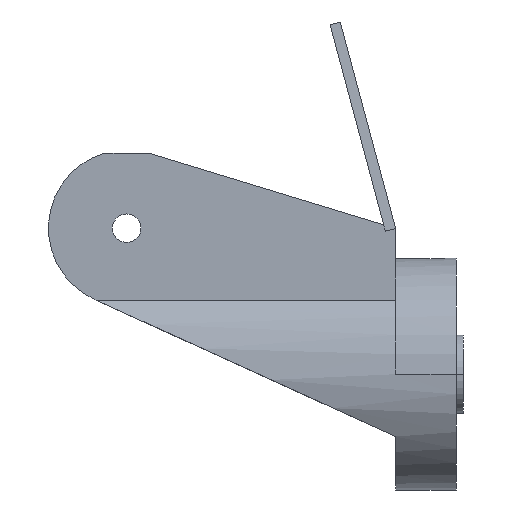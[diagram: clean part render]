
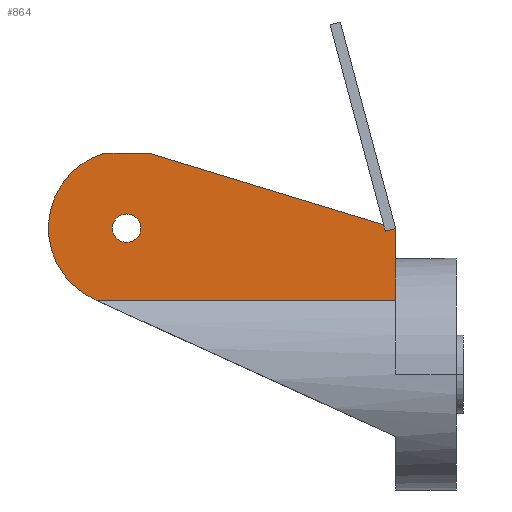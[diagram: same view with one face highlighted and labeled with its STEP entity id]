
A CAD part, left-side view. The second image highlights one B-rep face of the part: STEP entity #864.
In plain terms, the highlighted planar face has unit normal (-1, 0, 0).
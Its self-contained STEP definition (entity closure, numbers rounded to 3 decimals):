
#86=CARTESIAN_POINT('',(-25.,101.048,20.767));
#166=CARTESIAN_POINT('',(-25.,92.5,41.));
#167=DIRECTION('',(1.,0.,0.));
#168=DIRECTION('',(0.,0.,-1.));
#169=AXIS2_PLACEMENT_3D('',#166,#167,#168);
#171=CARTESIAN_POINT('',(-25.,92.5,41.));
#172=DIRECTION('',(1.,0.,0.));
#173=DIRECTION('',(0.,0.,1.));
#174=AXIS2_PLACEMENT_3D('',#171,#172,#173);
#176=DIRECTION('',(0.,0.259,0.966));
#177=VECTOR('',#176,1.873);
#178=CARTESIAN_POINT('',(-25.,19.898,40.132));
#179=LINE('',#178,#177);
#180=DIRECTION('',(0.,-0.966,0.259));
#181=VECTOR('',#180,3.);
#182=CARTESIAN_POINT('',(-25.,19.898,40.132));
#183=LINE('',#182,#181);
#184=DIRECTION('',(0.,1.,0.));
#185=VECTOR('',#184,84.048);
#186=CARTESIAN_POINT('',(-25.,17.,20.767));
#187=LINE('',#186,#185);
#188=DIRECTION('',(0.,0.91,0.414));
#189=VECTOR('',#188,0.604);
#190=CARTESIAN_POINT('',(-25.,101.048,20.767));
#191=LINE('',#190,#189);
#192=CARTESIAN_POINT('',(-25.,92.5,41.));
#193=DIRECTION('',(1.,0.,0.));
#194=DIRECTION('',(0.,0.414,-0.91));
#195=AXIS2_PLACEMENT_3D('',#192,#193,#194);
#197=DIRECTION('',(0.,0.956,0.292));
#198=VECTOR('',#197,68.7);
#199=CARTESIAN_POINT('',(-25.,20.383,41.941));
#200=LINE('',#199,#198);
#277=DIRECTION('',(0.,1.,0.));
#278=VECTOR('',#277,12.822);
#279=CARTESIAN_POINT('',(-25.,86.089,62.));
#280=LINE('',#279,#278);
#459=DIRECTION('',(0.,0.,1.));
#460=VECTOR('',#459,20.141);
#461=CARTESIAN_POINT('',(-25.,17.,20.767));
#462=LINE('',#461,#460);
#507=CARTESIAN_POINT('',(-25.,17.,20.767));
#509=VERTEX_POINT('',#507);
#513=VERTEX_POINT('',#86);
#518=CARTESIAN_POINT('',(-25.,101.598,21.017));
#519=CARTESIAN_POINT('',(-25.,98.911,62.));
#520=VERTEX_POINT('',#518);
#521=VERTEX_POINT('',#519);
#522=CARTESIAN_POINT('',(-25.,86.089,62.));
#523=VERTEX_POINT('',#522);
#574=CARTESIAN_POINT('',(-25.,92.5,37.));
#575=CARTESIAN_POINT('',(-25.,92.5,45.));
#576=VERTEX_POINT('',#574);
#577=VERTEX_POINT('',#575);
#600=CARTESIAN_POINT('',(-25.,19.898,40.132));
#601=CARTESIAN_POINT('',(-25.,20.383,41.941));
#602=VERTEX_POINT('',#600);
#603=VERTEX_POINT('',#601);
#604=CARTESIAN_POINT('',(-25.,17.,40.908));
#605=VERTEX_POINT('',#604);
#839=CARTESIAN_POINT('',(-25.,17.,20.767));
#840=DIRECTION('',(-1.,0.,0.));
#841=DIRECTION('',(0.,0.,1.));
#842=AXIS2_PLACEMENT_3D('',#839,#840,#841);
#843=PLANE('',#842);
#845=ORIENTED_EDGE('',*,*,#844,.F.);
#847=ORIENTED_EDGE('',*,*,#846,.T.);
#849=ORIENTED_EDGE('',*,*,#848,.F.);
#850=ORIENTED_EDGE('',*,*,#647,.T.);
#851=ORIENTED_EDGE('',*,*,#693,.T.);
#853=ORIENTED_EDGE('',*,*,#852,.T.);
#855=ORIENTED_EDGE('',*,*,#854,.F.);
#857=ORIENTED_EDGE('',*,*,#856,.F.);
#858=EDGE_LOOP('',(#845,#847,#849,#850,#851,#853,#855,#857));
#859=FACE_OUTER_BOUND('',#858,.F.);
#860=ORIENTED_EDGE('',*,*,#775,.F.);
#861=ORIENTED_EDGE('',*,*,#830,.F.);
#862=EDGE_LOOP('',(#860,#861));
#863=FACE_BOUND('',#862,.F.);
#864=ADVANCED_FACE('',(#859,#863),#843,.T.);
#170=CIRCLE('',#169,4.);
#175=CIRCLE('',#174,4.);
#196=CIRCLE('',#195,21.957);
#647=EDGE_CURVE('',#509,#513,#187,.T.);
#693=EDGE_CURVE('',#513,#520,#191,.T.);
#775=EDGE_CURVE('',#576,#577,#170,.T.);
#830=EDGE_CURVE('',#577,#576,#175,.T.);
#844=EDGE_CURVE('',#602,#603,#179,.T.);
#846=EDGE_CURVE('',#602,#605,#183,.T.);
#848=EDGE_CURVE('',#509,#605,#462,.T.);
#852=EDGE_CURVE('',#520,#521,#196,.T.);
#854=EDGE_CURVE('',#523,#521,#280,.T.);
#856=EDGE_CURVE('',#603,#523,#200,.T.);
